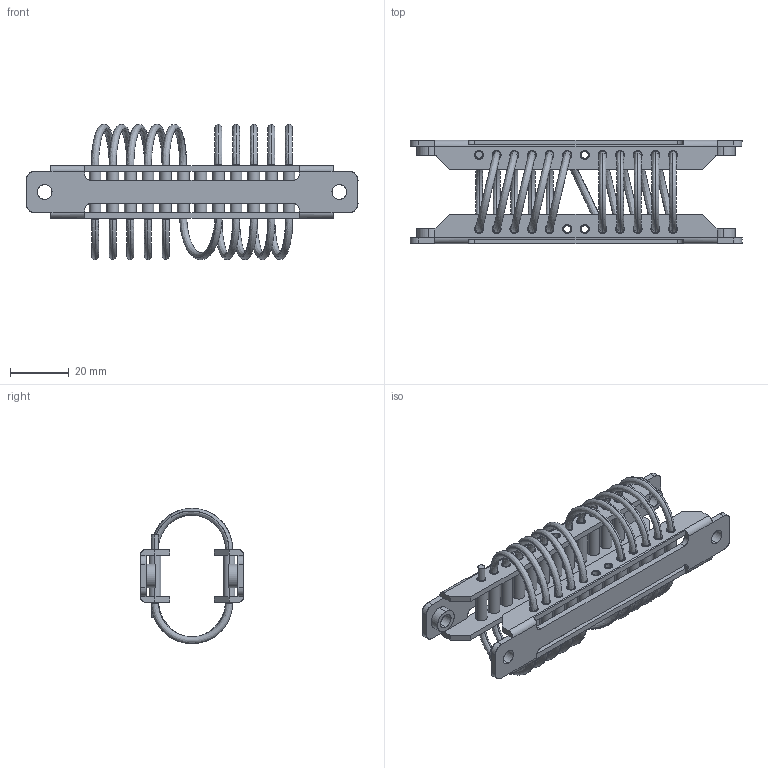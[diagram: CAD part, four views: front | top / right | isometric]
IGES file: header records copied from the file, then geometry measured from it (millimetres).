
Start section: SolidWorks IGES file using analytic representation for surfaces
Bounding box: 113 x 35.2 x 46.07 mm (x, y, z)
Surface area: 26833.8 mm2 (no closed solid volume)
Topology: 0 solids, 0 shells, 293 faces, 8412 edges, 8412 vertices
Faces by surface type: bspline 161, revolution 132
